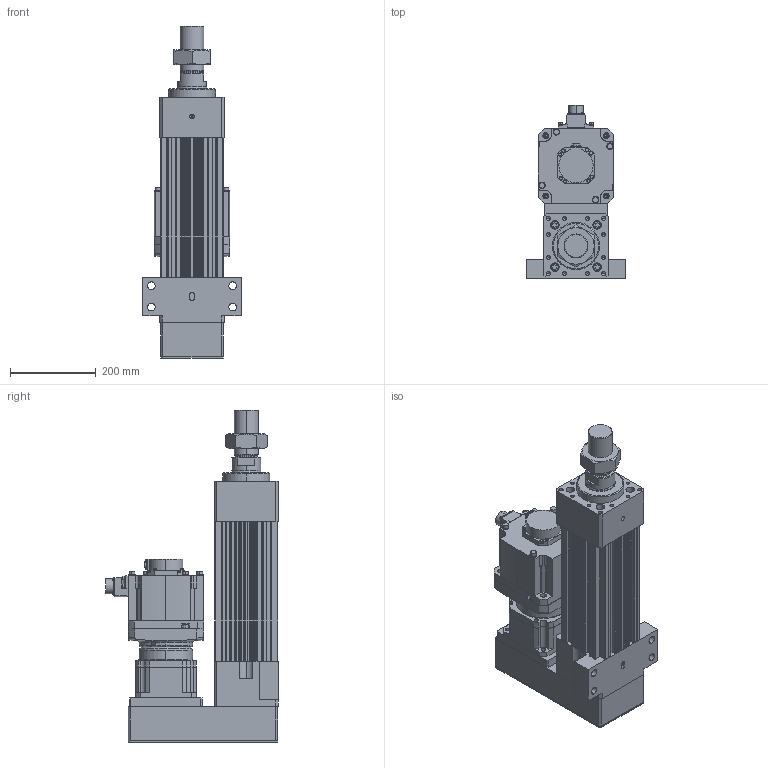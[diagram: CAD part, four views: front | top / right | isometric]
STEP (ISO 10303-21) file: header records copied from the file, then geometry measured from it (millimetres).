
FILE_DESCRIPTION (( 'STEP AP203' ), '1' );
FILE_NAME ('HES150NS(HS)-P050-W035G00-M-FFC.STEP', '2023-01-31T09:05:27', ( 'tms' ), ( '' ), 'SwSTEP 2.0', 'SolidWorks 2013', '' );
FILE_SCHEMA (( 'CONFIG_CONTROL_DESIGN' ));
Length unit declared in the file: millimetre
Products named in the file (9): P1301500001; AB142-003[HG-SR352]; AB1421; HES150NS(HS)-P050-W035G00-M-FFC; HES150-P050-G142-FFC; P0403500801; HES150 ROD M ST050; HG-SR352; M56X2.0P
Assembly tree (8 placements, depth 3):
  HES150NS(HS)-P050-W035G00-M-FFC
    HES150-P050-G142-FFC
    HES150 ROD M ST050
    M56X2.0P
    AB142-003[HG-SR352]
      AB1421
      P1301500001
      P0403500801
    HG-SR352
Bounding box: 230 x 403.85 x 776 mm (x, y, z)
Volume: 15522264.8 mm3; surface area: 1413368.5 mm2
Topology: 4 solids, 18 shells, 1470 faces, 3831 edges, 2471 vertices
Faces by surface type: cylinder 693, plane 529, cone 166, bspline 76, torus 6
Entity records: 53945 total; most frequent: CARTESIAN_POINT 16549, DIRECTION 7839, ORIENTED_EDGE 7520, EDGE_CURVE 3782, AXIS2_PLACEMENT_3D 2986, VERTEX_POINT 2471, VECTOR 1867, LINE 1867
